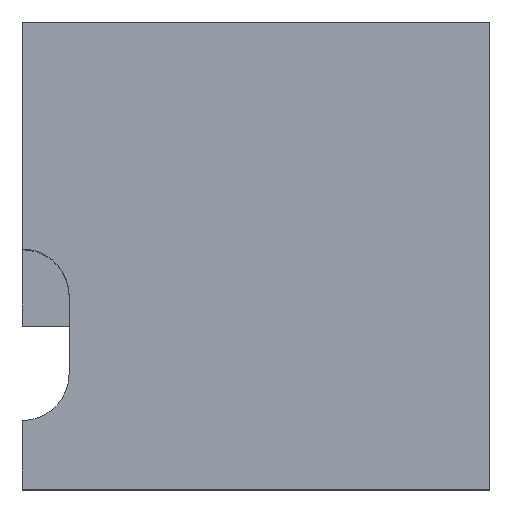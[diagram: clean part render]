
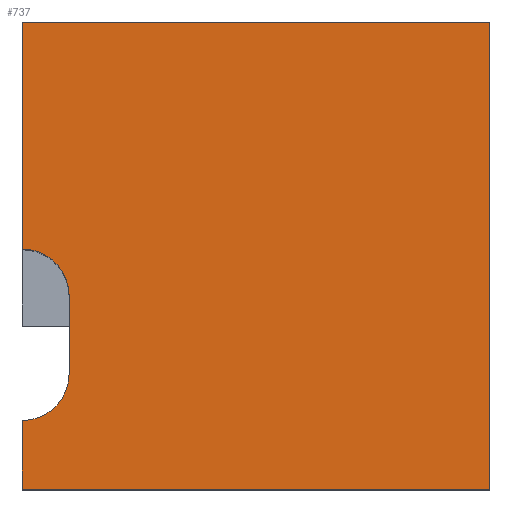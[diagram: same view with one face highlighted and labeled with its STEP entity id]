
A CAD part, top view. The second image highlights one B-rep face of the part: STEP entity #737.
In plain terms, the highlighted planar face has unit normal (0, 0, 1).
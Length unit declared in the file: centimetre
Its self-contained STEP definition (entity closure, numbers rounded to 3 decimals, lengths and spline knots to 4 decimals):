
#9 = ORIENTED_EDGE ( 'NONE', *, *, #390, .F. ) ;
#58 = DIRECTION ( 'NONE',  ( 0., -1., 0. ) ) ;
#59 = CARTESIAN_POINT ( 'NONE',  ( 0., 1000., 1000. ) ) ;
#65 = DIRECTION ( 'NONE',  ( 0., 0., 1. ) ) ;
#66 = CARTESIAN_POINT ( 'NONE',  ( 0., 0., 1000. ) ) ;
#70 = VECTOR ( 'NONE', #708, 100. ) ;
#71 = VERTEX_POINT ( 'NONE', #344 ) ;
#72 = CARTESIAN_POINT ( 'NONE',  ( 100.0074, 247.0104, 1000. ) ) ;
#105 = LINE ( 'NONE', #357, #299 ) ;
#110 = LINE ( 'NONE', #285, #542 ) ;
#122 = ORIENTED_EDGE ( 'NONE', *, *, #607, .T. ) ;
#125 = ORIENTED_EDGE ( 'NONE', *, *, #532, .T. ) ;
#129 = PLANE ( 'NONE',  #274 ) ;
#132 = CARTESIAN_POINT ( 'NONE',  ( 1000., 0., 1000. ) ) ;
#141 = VERTEX_POINT ( 'NONE', #624 ) ;
#172 = DIRECTION ( 'NONE',  ( 0., -1., 0. ) ) ;
#174 = CARTESIAN_POINT ( 'NONE',  ( 0., 513.9816, 1000. ) ) ;
#179 = DIRECTION ( 'NONE',  ( -1., 0., 0. ) ) ;
#185 = CARTESIAN_POINT ( 'NONE',  ( 0., 413.9742, 1000. ) ) ;
#198 = DIRECTION ( 'NONE',  ( 0., 0., 1. ) ) ;
#202 = VERTEX_POINT ( 'NONE', #605 ) ;
#206 = FACE_OUTER_BOUND ( 'NONE', #692, .T. ) ;
#223 = CARTESIAN_POINT ( 'NONE',  ( 0., 1000., 1000. ) ) ;
#258 = VERTEX_POINT ( 'NONE', #174 ) ;
#274 = AXIS2_PLACEMENT_3D ( 'NONE', #603, #198, #362 ) ;
#285 = CARTESIAN_POINT ( 'NONE',  ( 0., 1000., 1000. ) ) ;
#299 = VECTOR ( 'NONE', #396, 100. ) ;
#341 = VERTEX_POINT ( 'NONE', #132 ) ;
#344 = CARTESIAN_POINT ( 'NONE',  ( 0., 147.0029, 1000. ) ) ;
#348 = VECTOR ( 'NONE', #522, 100. ) ;
#350 = EDGE_CURVE ( 'NONE', #71, #408, #716, .T. ) ;
#357 = CARTESIAN_POINT ( 'NONE',  ( 0., 1000., 1000. ) ) ;
#362 = DIRECTION ( 'NONE',  ( 1., 0., 0. ) ) ;
#390 = EDGE_CURVE ( 'NONE', #411, #258, #548, .T. ) ;
#396 = DIRECTION ( 'NONE',  ( -1., 0., 0. ) ) ;
#403 = DIRECTION ( 'NONE',  ( -1., 0., 0. ) ) ;
#408 = VERTEX_POINT ( 'NONE', #72 ) ;
#409 = EDGE_CURVE ( 'NONE', #141, #341, #591, .T. ) ;
#411 = VERTEX_POINT ( 'NONE', #648 ) ;
#412 = DIRECTION ( 'NONE',  ( 0., 0., 1. ) ) ;
#440 = ORIENTED_EDGE ( 'NONE', *, *, #623, .T. ) ;
#447 = DIRECTION ( 'NONE',  ( 0., 1., 0. ) ) ;
#453 = EDGE_CURVE ( 'NONE', #341, #202, #567, .T. ) ;
#468 = ORIENTED_EDGE ( 'NONE', *, *, #350, .F. ) ;
#512 = AXIS2_PLACEMENT_3D ( 'NONE', #633, #65, #179 ) ;
#522 = DIRECTION ( 'NONE',  ( 0., 1., 0. ) ) ;
#532 = EDGE_CURVE ( 'NONE', #71, #141, #745, .T. ) ;
#542 = VECTOR ( 'NONE', #58, 100. ) ;
#548 = CIRCLE ( 'NONE', #645, 100.0074 ) ;
#551 = CARTESIAN_POINT ( 'NONE',  ( 100.0074, 413.9742, 1000. ) ) ;
#567 = LINE ( 'NONE', #733, #631 ) ;
#570 = LINE ( 'NONE', #551, #348 ) ;
#588 = EDGE_CURVE ( 'NONE', #408, #411, #570, .T. ) ;
#591 = LINE ( 'NONE', #66, #70 ) ;
#603 = CARTESIAN_POINT ( 'NONE',  ( 0., 0., 1000. ) ) ;
#605 = CARTESIAN_POINT ( 'NONE',  ( 1000., 1000., 1000. ) ) ;
#607 = EDGE_CURVE ( 'NONE', #647, #258, #110, .T. ) ;
#609 = VECTOR ( 'NONE', #172, 100. ) ;
#623 = EDGE_CURVE ( 'NONE', #202, #647, #105, .T. ) ;
#624 = CARTESIAN_POINT ( 'NONE',  ( 0., 0., 1000. ) ) ;
#631 = VECTOR ( 'NONE', #447, 100. ) ;
#633 = CARTESIAN_POINT ( 'NONE',  ( 0., 247.0104, 1000. ) ) ;
#645 = AXIS2_PLACEMENT_3D ( 'NONE', #185, #412, #403 ) ;
#647 = VERTEX_POINT ( 'NONE', #59 ) ;
#648 = CARTESIAN_POINT ( 'NONE',  ( 100.0074, 413.9742, 1000. ) ) ;
#671 = ORIENTED_EDGE ( 'NONE', *, *, #453, .T. ) ;
#692 = EDGE_LOOP ( 'NONE', ( #468, #125, #702, #671, #440, #122, #9, #697 ) ) ;
#697 = ORIENTED_EDGE ( 'NONE', *, *, #588, .F. ) ;
#702 = ORIENTED_EDGE ( 'NONE', *, *, #409, .T. ) ;
#708 = DIRECTION ( 'NONE',  ( 1., 0., 0. ) ) ;
#716 = CIRCLE ( 'NONE', #512, 100.0074 ) ;
#733 = CARTESIAN_POINT ( 'NONE',  ( 1000., 1000., 1000. ) ) ;
#737 = ADVANCED_FACE ( 'NONE', ( #206 ), #129, .T. ) ;
#745 = LINE ( 'NONE', #223, #609 ) ;
